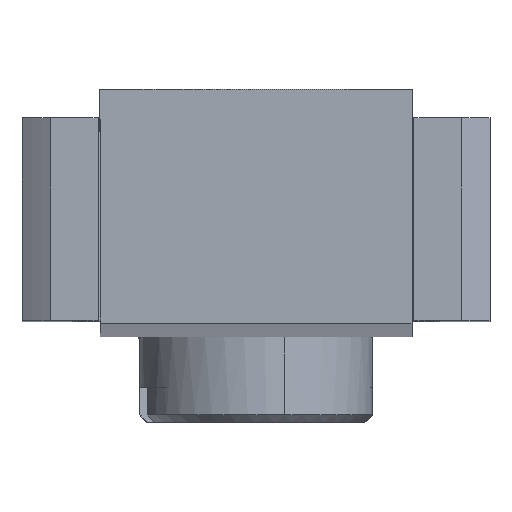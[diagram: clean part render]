
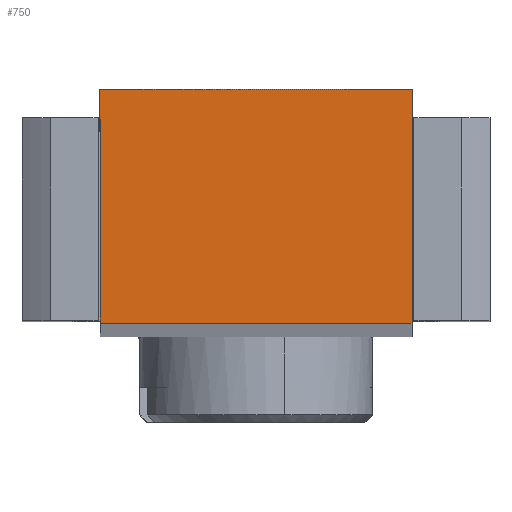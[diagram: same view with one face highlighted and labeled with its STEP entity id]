
A CAD part, top view. The second image highlights one B-rep face of the part: STEP entity #750.
In plain terms, the highlighted planar face has unit normal (0, 0, 1).
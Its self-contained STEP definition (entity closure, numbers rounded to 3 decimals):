
#1 = PLANE ( 'NONE',  #387 ) ;
#10 = EDGE_LOOP ( 'NONE', ( #886, #1166, #1115, #740 ) ) ;
#33 = CARTESIAN_POINT ( 'NONE',  ( -2., -1.53, 52.963 ) ) ;
#38 = DIRECTION ( 'NONE',  ( 1., 0., 0. ) ) ;
#87 = VECTOR ( 'NONE', #633, 1000. ) ;
#89 = EDGE_CURVE ( 'NONE', #661, #477, #1233, .T. ) ;
#126 = CARTESIAN_POINT ( 'NONE',  ( 2., -1.53, 52.963 ) ) ;
#136 = VECTOR ( 'NONE', #294, 1000. ) ;
#148 = VECTOR ( 'NONE', #179, 1000. ) ;
#176 = DIRECTION ( 'NONE',  ( 0., 0., 1. ) ) ;
#179 = DIRECTION ( 'NONE',  ( 0., 1., 0. ) ) ;
#268 = DIRECTION ( 'NONE',  ( -1., 0., 0. ) ) ;
#294 = DIRECTION ( 'NONE',  ( 0., -1., 0. ) ) ;
#387 = AXIS2_PLACEMENT_3D ( 'NONE', #126, #176, #38 ) ;
#477 = VERTEX_POINT ( 'NONE', #1198 ) ;
#507 = CARTESIAN_POINT ( 'NONE',  ( -2., -1.53, 52.963 ) ) ;
#550 = EDGE_CURVE ( 'NONE', #1209, #661, #1339, .T. ) ;
#633 = DIRECTION ( 'NONE',  ( 1., 0., 0. ) ) ;
#661 = VERTEX_POINT ( 'NONE', #33 ) ;
#688 = LINE ( 'NONE', #1528, #1691 ) ;
#723 = CARTESIAN_POINT ( 'NONE',  ( 2., 1.47, 52.963 ) ) ;
#740 = ORIENTED_EDGE ( 'NONE', *, *, #89, .T. ) ;
#750 = ADVANCED_FACE ( 'NONE', ( #1137 ), #1, .T. ) ;
#880 = LINE ( 'NONE', #723, #148 ) ;
#886 = ORIENTED_EDGE ( 'NONE', *, *, #982, .T. ) ;
#982 = EDGE_CURVE ( 'NONE', #477, #1678, #880, .T. ) ;
#1064 = CARTESIAN_POINT ( 'NONE',  ( -2., 1.47, 52.963 ) ) ;
#1115 = ORIENTED_EDGE ( 'NONE', *, *, #550, .T. ) ;
#1137 = FACE_OUTER_BOUND ( 'NONE', #10, .T. ) ;
#1166 = ORIENTED_EDGE ( 'NONE', *, *, #1620, .T. ) ;
#1198 = CARTESIAN_POINT ( 'NONE',  ( 2., -1.53, 52.963 ) ) ;
#1209 = VERTEX_POINT ( 'NONE', #1064 ) ;
#1233 = LINE ( 'NONE', #507, #87 ) ;
#1243 = CARTESIAN_POINT ( 'NONE',  ( 2., 1.47, 52.963 ) ) ;
#1339 = LINE ( 'NONE', #1517, #136 ) ;
#1517 = CARTESIAN_POINT ( 'NONE',  ( -2., 1.47, 52.963 ) ) ;
#1528 = CARTESIAN_POINT ( 'NONE',  ( 2., 1.47, 52.963 ) ) ;
#1620 = EDGE_CURVE ( 'NONE', #1678, #1209, #688, .T. ) ;
#1678 = VERTEX_POINT ( 'NONE', #1243 ) ;
#1691 = VECTOR ( 'NONE', #268, 1000. ) ;
